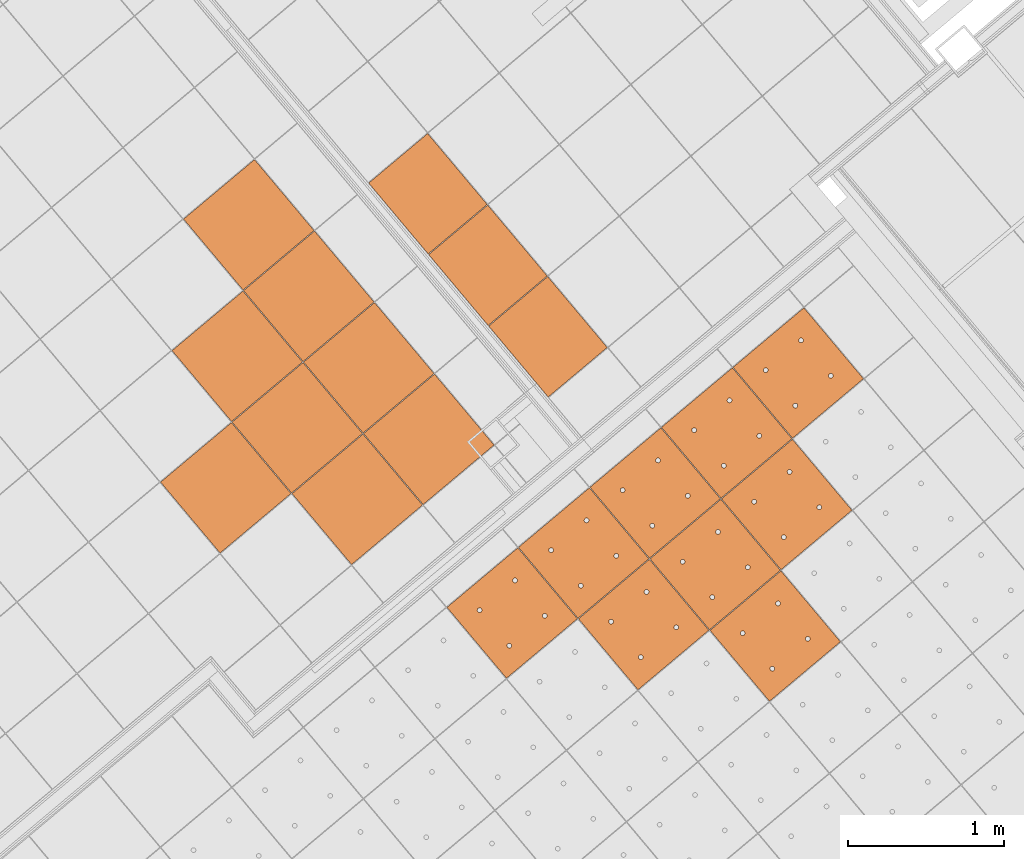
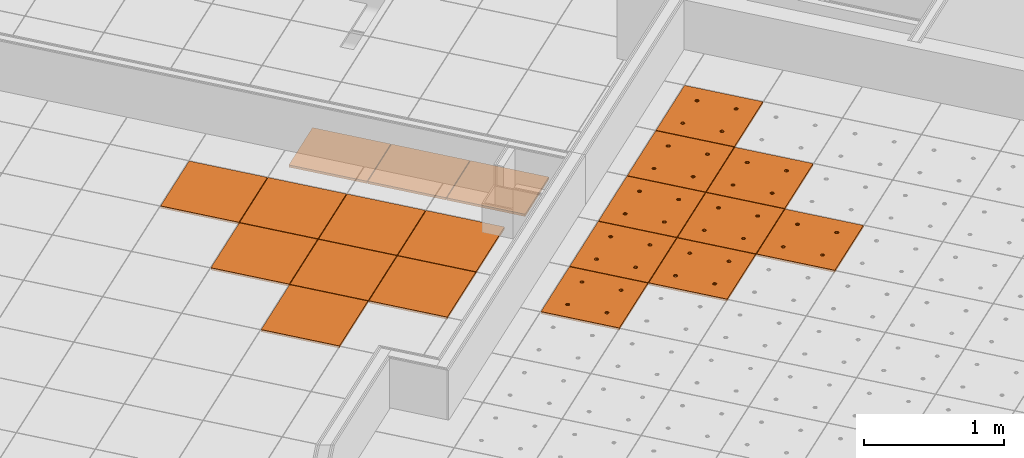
# One storey, part 191 of 338: 20 proxies, 3 elements without a shape of their own.
"""IFC2X3 building model written with IfcOpenShell, lengths in millimetres."""

import ifcopenshell
import ifcopenshell.guid

model = None  # the IFC model being written
_history = None  # IfcOwnerHistory: only IFC2X3 demands one
_inside = {}  # id of a spatial element -> (the spatial element, [elements in it])
_under = {}  # id of a project, library or spatial element -> (it, [spatial elements below it])
_declared = {}  # id of a project -> (the project, [libraries it declares])
_typed = {}  # id of a type object -> (the type object, [elements of that type])
_made_of = {}  # id of a material, layer set ... -> (it, [elements and type objects made of it])


def new_model(schema):
    """Start an empty IFC model of exactly this schema.

    Asked for "IFC4X3", IfcOpenShell would pick the latest addendum, in which some entities
    have other attributes; the version numbers below select the first issue.
    IFC2X3 requires an IfcOwnerHistory on every rooted entity: one is made here for all.
    """
    global model, _history
    if schema == "IFC4X3":
        model = ifcopenshell.file(schema_version=(4, 3, 0, 0))
    else:
        model = ifcopenshell.file(schema=schema)
    _inside.clear()
    _under.clear()
    _declared.clear()
    _typed.clear()
    _made_of.clear()
    _history = None
    if model.schema == "IFC2X3":
        org = make("IfcOrganization", Name="unknown")
        user = make(
            "IfcPersonAndOrganization",
            ThePerson=make("IfcPerson", FamilyName="unknown"),
            TheOrganization=org,
        )
        app = make(
            "IfcApplication",
            ApplicationDeveloper=org,
            Version="unknown",
            ApplicationFullName="unknown",
            ApplicationIdentifier="unknown",
        )
        _history = make(
            "IfcOwnerHistory",
            OwningUser=user,
            OwningApplication=app,
            ChangeAction="ADDED",
            CreationDate=0,
        )
    return model


def make(cls, **values):
    """One entity of the class cls with the attributes given. An attribute that is None is left unset."""
    return model.create_entity(
        cls, **{name: value for name, value in values.items() if value is not None}
    )


def entity(cls, *values):
    """Any entity or typed value of the class cls, its attributes in the order of the schema. None: left unset."""
    e = model.create_entity(cls)
    for i, value in enumerate(values):
        if value is not None:
            e[i] = value
    return e


def rooted(cls, **values):
    """An entity with a GlobalId (a new one), such as an element, a storey or a relation."""
    return make(cls, GlobalId=ifcopenshell.guid.new(), OwnerHistory=_history, **values)


def si_unit(unit_type, name, prefix=None):
    """IfcSIUnit, for example si_unit("LENGTHUNIT", "METRE", prefix="MILLI")."""
    return make("IfcSIUnit", UnitType=unit_type, Prefix=prefix, Name=name)


def converted_unit(unit_type, name, factor, base, dimensions=None, offset=None):
    """IfcConversionBasedUnit, such as the inch: factor (a typed value) times the base unit."""
    return make(
        "IfcConversionBasedUnit"
        if offset is None
        else "IfcConversionBasedUnitWithOffset",
        ConversionOffset=offset,
        Dimensions=None
        if dimensions is None
        else entity("IfcDimensionalExponents", *dimensions),
        UnitType=unit_type,
        Name=name,
        ConversionFactor=make(
            "IfcMeasureWithUnit", ValueComponent=factor, UnitComponent=base
        ),
    )


def derived_unit(unit_type, elements):
    """IfcDerivedUnit: a product of units, each with its exponent."""
    return make(
        "IfcDerivedUnit",
        Elements=[
            make("IfcDerivedUnitElement", Unit=unit, Exponent=power)
            for unit, power in elements
        ],
        UnitType=unit_type,
    )


def money_unit(currency):
    """IfcMonetaryUnit."""
    return make("IfcMonetaryUnit", Currency=currency)


def assignment(units):
    """IfcUnitAssignment: the units of a project."""
    return None if units is None else make("IfcUnitAssignment", Units=units)


def point(xyz):
    """IfcCartesianPoint."""
    return None if xyz is None else make("IfcCartesianPoint", Coordinates=xyz)


def direction(xyz):
    """IfcDirection."""
    return None if xyz is None else make("IfcDirection", DirectionRatios=xyz)


def frame(location, z_axis=None, x_axis=None):
    """IfcAxis2Placement3D, a coordinate frame: its origin and axes. An axis left out is left unset."""
    return make(
        "IfcAxis2Placement3D",
        Location=point(location),
        Axis=direction(z_axis),
        RefDirection=direction(x_axis),
    )


def origin_with_axes():
    """The frame at (0, 0, 0) with the z axis (0, 0, 1) and the x axis (1, 0, 0) written out."""
    return frame((0.0, 0.0, 0.0), z_axis=(0.0, 0.0, 1.0), x_axis=(1.0, 0.0, 0.0))


def place(relative_to, where):
    """IfcLocalPlacement: puts the frame where relative to a parent placement (None: the world)."""
    return make(
        "IfcLocalPlacement", PlacementRelTo=relative_to, RelativePlacement=where
    )


def context(
    kind, dimensions, precision=None, world=None, true_north=None, identifier=None
):
    """IfcGeometricRepresentationContext, for example the 3D "Model" context."""
    return make(
        "IfcGeometricRepresentationContext",
        ContextIdentifier=identifier,
        ContextType=kind,
        CoordinateSpaceDimension=dimensions,
        Precision=precision,
        WorldCoordinateSystem=world,
        TrueNorth=true_north,
    )


def subcontext(parent, identifier, kind, view, scale=None):
    """IfcGeometricRepresentationSubContext, for example "Body" below "Model"."""
    return make(
        "IfcGeometricRepresentationSubContext",
        ContextIdentifier=identifier,
        ContextType=kind,
        ParentContext=parent,
        TargetScale=scale,
        TargetView=view,
    )


def project(units=None, contexts=None):
    """IfcProject with its units and contexts."""
    return rooted(
        "IfcProject",
        Name="project",
        RepresentationContexts=contexts,
        UnitsInContext=assignment(units),
    )


def spatial(cls, under=None, at=None, **own):
    """A site, building, storey or space (cls), placed at a placement, below another one or the project."""
    s = rooted(cls, ObjectPlacement=at, **own)
    if under is not None:
        _under.setdefault(under.id(), (under, []))[1].append(s)
    return s


def faces_of(points, faces, orient=None, outer=None):
    """IfcFace entities. A face is a list of loops; a loop is a list of indices into points, from 0.

    orient and outer hold one flag for each loop. By default every Orientation is true, the
    first loop of a face is its IfcFaceOuterBound and the others are IfcFaceBound.
    """
    made = []
    for i, loops in enumerate(faces):
        bounds = []
        for j, loop in enumerate(loops):
            is_outer = j == 0 if outer is None else outer[i][j]
            bounds.append(
                make(
                    "IfcFaceOuterBound" if is_outer else "IfcFaceBound",
                    Bound=make("IfcPolyLoop", Polygon=[points[k] for k in loop]),
                    Orientation=True if orient is None else orient[i][j],
                )
            )
        made.append(make("IfcFace", Bounds=bounds))
    return made


def faceted_brep(points, faces, orient=None, outer=None, voids=None):
    """IfcFacetedBrep: a solid bounded by flat faces; with voids (closed shells), ...WithVoids."""
    shared = [point(p) for p in points]
    hull = make("IfcClosedShell", CfsFaces=faces_of(shared, faces, orient, outer))
    if voids is None:
        return make("IfcFacetedBrep", Outer=hull)
    return make(
        "IfcFacetedBrepWithVoids",
        Outer=hull,
        Voids=[
            make(cls, CfsFaces=faces_of(shared, fs, o, b)) for cls, fs, o, b in voids
        ],
    )


def shape(context_of_items, identifier, shape_type, items):
    """IfcShapeRepresentation: the items that make up one representation, for example the "Body"."""
    return make(
        "IfcShapeRepresentation",
        ContextOfItems=context_of_items,
        RepresentationIdentifier=identifier,
        RepresentationType=shape_type,
        Items=items,
    )


def source(mapping_origin, context_of_items, identifier, shape_type, items):
    """IfcRepresentationMap: a shape defined once, which mapped items show again and again."""
    return make(
        "IfcRepresentationMap",
        MappingOrigin=mapping_origin,
        MappedRepresentation=shape(context_of_items, identifier, shape_type, items),
    )


def transform(
    local_origin,
    x_axis=None,
    y_axis=None,
    z_axis=None,
    scale=None,
    scale2=None,
    scale3=None,
    uniform=True,
):
    """IfcCartesianTransformationOperator3D, or its non-uniform kind. x_axis, y_axis, z_axis: its Axis1, 2, 3."""
    if uniform:
        return make(
            "IfcCartesianTransformationOperator3D",
            Axis1=direction(x_axis),
            Axis2=direction(y_axis),
            LocalOrigin=point(local_origin),
            Scale=scale,
            Axis3=direction(z_axis),
        )
    return make(
        "IfcCartesianTransformationOperator3DnonUniform",
        Axis1=direction(x_axis),
        Axis2=direction(y_axis),
        LocalOrigin=point(local_origin),
        Scale=scale,
        Axis3=direction(z_axis),
        Scale2=scale2,
        Scale3=scale3,
    )


def mapped(mapping_source, mapping_target):
    """IfcMappedItem: shows the shape of a source again, moved by a transform."""
    return make(
        "IfcMappedItem", MappingSource=mapping_source, MappingTarget=mapping_target
    )


def material(Name=None, Category=None):
    """IfcMaterial."""
    return make("IfcMaterial", Name=Name, Category=Category)


def made_of(thing, what):
    """Note that an element or type object is made of a material, layer set ...; save() writes the relation."""
    if what is not None:
        _made_of.setdefault(what.id(), (what, []))[1].append(thing)
    return thing


def type_object(cls, material=None, **own):
    """A type object (cls), such as IfcWallType, which elements share."""
    return made_of(rooted(cls, **own), material)


def type_shapes(of_type, sources):
    """Give a type object the sources (RepresentationMaps) that its elements show as mapped items."""
    of_type.RepresentationMaps = sources


def element(
    cls,
    number,
    at=None,
    inside=None,
    cuts=None,
    type_object=None,
    material=None,
    context=None,
    identifier="Body",
    shape_type=None,
    held_by="IfcProductDefinitionShape",
    body=None,
    shapes=None,
    **own,
):
    """One element of the class cls, such as IfcWall. Its Tag is "e" and its number.

    at: its placement. inside: the storey or other place that contains it. cuts: it is an
    opening in that element (IfcRelVoidsElement). A single representation is given by context,
    identifier, shape_type and body (its items); several are given by shapes. held_by: the class
    of the entity that holds the representations. save() writes the other relations.
    """
    e = rooted(cls, Tag="e%d" % number, ObjectPlacement=at, **own)
    if body is not None:
        shapes = [shape(context, identifier, shape_type, body)]
    if shapes is not None:
        e.Representation = make(held_by, Representations=shapes)
    if inside is not None:
        _inside.setdefault(inside.id(), (inside, []))[1].append(e)
    if cuts is not None:
        rooted(
            "IfcRelVoidsElement", RelatingBuildingElement=cuts, RelatedOpeningElement=e
        )
    if type_object is not None:
        _typed.setdefault(type_object.id(), (type_object, []))[1].append(e)
    return made_of(e, material)


def aggregate(whole, parts):
    """IfcRelAggregates: a whole, such as a stair, and the parts it consists of."""
    return rooted("IfcRelAggregates", RelatingObject=whole, RelatedObjects=parts)


def save(model, path):
    """Write the relations noted so far, then the file.

    IfcRelAggregates (storeys below a building ...), IfcRelContainedInSpatialStructure (elements
    in a storey), IfcRelDefinesByType, IfcRelAssociatesMaterial and IfcRelDeclares: one each for
    every whole, place, type object, material and project.
    """
    for whole, parts in _under.values():
        aggregate(whole, parts)
    for where, things in _inside.values():
        rooted(
            "IfcRelContainedInSpatialStructure",
            RelatedElements=things,
            RelatingStructure=where,
        )
    for kind, things in _typed.values():
        rooted("IfcRelDefinesByType", RelatedObjects=things, RelatingType=kind)
    for what, things in _made_of.values():
        rooted("IfcRelAssociatesMaterial", RelatedObjects=things, RelatingMaterial=what)
    for by, libraries in _declared.values():
        rooted("IfcRelDeclares", RelatingContext=by, RelatedDefinitions=libraries)
    model.write(path)


model = new_model("IFC2X3")

# Units and contexts
model_context = context("Model", 3, precision=0.01, world=origin_with_axes(), true_north=direction((0.0, 1.0)))
plan_context = context("Plan", 3, precision=0.01, world=origin_with_axes(), true_north=direction((0.0, 1.0)))
body_context = subcontext(model_context, "Body", "Model", "MODEL_VIEW")
ifc_project = project(units=[si_unit("LENGTHUNIT", "METRE", prefix="MILLI"), si_unit("AREAUNIT", "SQUARE_METRE"), si_unit("VOLUMEUNIT", "CUBIC_METRE"), converted_unit("PLANEANGLEUNIT", "DEGREE", entity("IfcPlaneAngleMeasure", 0.0174532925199), si_unit("PLANEANGLEUNIT", "RADIAN"), dimensions=[0, 0, 0, 0, 0, 0, 0]), money_unit("EUR"), converted_unit("TIMEUNIT", "Year", entity("IfcTimeMeasure", 31556926.0), si_unit("TIMEUNIT", "SECOND"), dimensions=[0, 0, 1, 0, 0, 0, 0]), si_unit("MASSUNIT", "GRAM", prefix="KILO"), si_unit("THERMODYNAMICTEMPERATUREUNIT", "DEGREE_CELSIUS"), si_unit("LUMINOUSINTENSITYUNIT", "LUMEN"), si_unit("ENERGYUNIT", "JOULE", prefix="MEGA"), derived_unit("THERMALCONDUCTANCEUNIT", [(si_unit("POWERUNIT", "WATT"), 1), (si_unit("LENGTHUNIT", "METRE"), -1), (si_unit("THERMODYNAMICTEMPERATUREUNIT", "KELVIN"), -1)]), derived_unit("SPECIFICHEATCAPACITYUNIT", [(si_unit("ENERGYUNIT", "JOULE"), 1), (si_unit("MASSUNIT", "GRAM", prefix="KILO"), -1), (si_unit("THERMODYNAMICTEMPERATUREUNIT", "KELVIN"), -1)]), derived_unit("MASSDENSITYUNIT", [(si_unit("MASSUNIT", "GRAM", prefix="KILO"), 1), (si_unit("VOLUMEUNIT", "CUBIC_METRE"), -1)])], contexts=[model_context, plan_context])

# Site, building, storey
site_placement = place(None, origin_with_axes())
site = spatial("IfcSite", under=ifc_project, at=site_placement, Name="Fortuinstraat Woensdrecht", CompositionType="ELEMENT")
building_placement = place(site_placement, origin_with_axes())
building = spatial("IfcBuilding", under=site, at=building_placement, Name="IKC Fortuna", CompositionType="ELEMENT")
storey_placement = place(building_placement, origin_with_axes())
storey = spatial("IfcBuildingStorey", under=building, at=storey_placement, Name="00 begane grond", CompositionType="ELEMENT", Elevation=0.0)

# Covering, proxies
covering_type = type_object("IfcCoveringType", Name="Curtain Wall Type", PredefinedType="CEILING")
covering_1_placement = place(storey_placement, frame((17937.1227498, -4186.27868692, 4660.0), z_axis=(0.0, 0.0, 1.0), x_axis=(1.0, 0.0, 0.0)))
covering_1 = element("IfcCovering", 1, at=covering_1_placement, inside=storey, type_object=covering_type, Name="45_Plafondafwerking_P02", PredefinedType="CEILING")
ifc_material = material(Name="Gipsplaat")
building_element_proxy_type_1 = type_object("IfcBuildingElementProxyType", Name="Distinct Panel 600 x 600 x 20", PredefinedType="NOTDEFINED")
shared_shape_1 = source(origin_with_axes(), body_context, "Body", "Brep", [
    faceted_brep([(2.49999999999, 2.5, -10.0), (597.5, 2.49999999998, -10.0), (597.5, 2.49999999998, 10.0), (2.49999999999, 2.5, 10.0), (2.50000000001, 597.5, -10.0), (597.5, 597.5, -10.0), (597.5, 597.5, 10.0), (2.50000000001, 597.5, 10.0)], [[[0, 1, 2, 3]], [[0, 4, 5, 1]], [[1, 5, 6, 2]], [[3, 2, 6, 7]], [[4, 0, 3, 7]], [[5, 4, 7, 6]]]),
])
proxy_1_placement = place(covering_1_placement, frame((-681.2677545, 811.902875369, 0.0), z_axis=(0.0, 0.0, 1.0), x_axis=(1.0, 0.0, 0.0)))
proxy_1 = element("IfcBuildingElementProxy", 2, at=proxy_1_placement, type_object=building_element_proxy_type_1, material=ifc_material, Name="__Panel-D", context=body_context, shape_type="MappedRepresentation", body=[
    mapped(shared_shape_1, transform((36.9769427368, 422.649625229, 0.0), x_axis=(-0.766044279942, -0.642787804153, 0.0), y_axis=(0.642787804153, -0.766044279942, 0.0), z_axis=(0.0, 0.0, 1.0))),
])
proxy_2_placement = place(covering_1_placement, frame((623.658063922, 1123.62167239, 0.0), z_axis=(0.0, 0.0, 1.0), x_axis=(1.0, 0.0, 0.0)))
proxy_2 = element("IfcBuildingElementProxy", 3, at=proxy_2_placement, type_object=building_element_proxy_type_1, material=ifc_material, Name="__Panel-D", context=body_context, shape_type="MappedRepresentation", body=[
    mapped(shared_shape_1, transform((36.9769427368, 422.649625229, 0.0), x_axis=(-0.766044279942, -0.642787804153, 0.0), y_axis=(0.642787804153, -0.766044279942, 0.0), z_axis=(0.0, 0.0, 1.0))),
])
proxy_3_placement = place(covering_1_placement, frame((-607.313869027, 1657.20212583, 0.0), z_axis=(0.0, 0.0, 1.0), x_axis=(1.0, 0.0, 0.0)))
proxy_3 = element("IfcBuildingElementProxy", 4, at=proxy_3_placement, type_object=building_element_proxy_type_1, material=ifc_material, Name="__Panel-D", context=body_context, shape_type="MappedRepresentation", body=[
    mapped(shared_shape_1, transform((36.9769427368, 422.649625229, 0.0), x_axis=(-0.766044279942, -0.642787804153, 0.0), y_axis=(0.642787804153, -0.766044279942, 0.0), z_axis=(0.0, 0.0, 1.0))),
])
proxy_4_placement = place(covering_1_placement, frame((-147.687301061, 2042.87480832, 0.0), z_axis=(0.0, 0.0, 1.0), x_axis=(1.0, 0.0, 0.0)))
proxy_4 = element("IfcBuildingElementProxy", 5, at=proxy_4_placement, type_object=building_element_proxy_type_1, material=ifc_material, Name="__Panel-D", context=body_context, shape_type="MappedRepresentation", body=[
    mapped(shared_shape_1, transform((36.9769427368, 422.649625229, 0.0), x_axis=(-0.766044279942, -0.642787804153, 0.0), y_axis=(0.642787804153, -0.766044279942, 0.0), z_axis=(0.0, 0.0, 1.0))),
])
proxy_5_placement = place(covering_1_placement, frame((237.98538143, 1583.24824035, 0.0), z_axis=(0.0, 0.0, 1.0), x_axis=(1.0, 0.0, 0.0)))
proxy_5 = element("IfcBuildingElementProxy", 6, at=proxy_5_placement, type_object=building_element_proxy_type_1, material=ifc_material, Name="__Panel-D", context=body_context, shape_type="MappedRepresentation", body=[
    mapped(shared_shape_1, transform((36.9769427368, 422.649625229, 0.0), x_axis=(-0.766044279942, -0.642787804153, 0.0), y_axis=(0.642787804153, -0.766044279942, 0.0), z_axis=(0.0, 0.0, 1.0))),
])
proxy_6_placement = place(covering_1_placement, frame((-533.359983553, 2502.50137628, 0.0), z_axis=(0.0, 0.0, 1.0), x_axis=(1.0, 0.0, 0.0)))
proxy_6 = element("IfcBuildingElementProxy", 7, at=proxy_6_placement, type_object=building_element_proxy_type_1, material=ifc_material, Name="__Panel-D", context=body_context, shape_type="MappedRepresentation", body=[
    mapped(shared_shape_1, transform((36.9769427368, 422.649625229, 0.0), x_axis=(-0.766044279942, -0.642787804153, 0.0), y_axis=(0.642787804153, -0.766044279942, 0.0), z_axis=(0.0, 0.0, 1.0))),
])
proxy_7_placement = place(covering_1_placement, frame((164.031495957, 737.948989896, 0.0), z_axis=(0.0, 0.0, 1.0), x_axis=(1.0, 0.0, 0.0)))
proxy_7 = element("IfcBuildingElementProxy", 8, at=proxy_7_placement, type_object=building_element_proxy_type_1, material=ifc_material, Name="__Panel-D", context=body_context, shape_type="MappedRepresentation", body=[
    mapped(shared_shape_1, transform((36.9769427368, 422.649625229, 0.0), x_axis=(-0.766044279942, -0.642787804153, 0.0), y_axis=(0.642787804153, -0.766044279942, 0.0), z_axis=(0.0, 0.0, 1.0))),
])
shared_shape_2 = source(origin_with_axes(), body_context, "Body", "Brep", [
    faceted_brep([(2.50000188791, 2.50000518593, -10.0), (597.499994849, 2.50000192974, -10.0), (597.499994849, 2.50000192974, 10.0), (2.50000188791, 2.50000518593, 10.0), (2.50000514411, 597.499998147, -10.0), (597.499998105, 597.499994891, -10.0), (597.499998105, 597.499994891, 10.0), (2.50000514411, 597.499998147, 10.0)], [[[0, 1, 2, 3]], [[0, 4, 5, 1]], [[1, 5, 6, 2]], [[3, 2, 6, 7]], [[4, 0, 3, 7]], [[5, 4, 7, 6]]]),
])
type_shapes(building_element_proxy_type_1, [shared_shape_1, shared_shape_2])
proxy_8_placement = place(covering_1_placement, frame((-221.641186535, 1197.57555786, 0.0), z_axis=(0.0, 0.0, 1.0), x_axis=(1.0, 0.0, 0.0)))
proxy_8 = element("IfcBuildingElementProxy", 9, at=proxy_8_placement, type_object=building_element_proxy_type_1, material=ifc_material, Name="__Panel-D", context=body_context, shape_type="MappedRepresentation", body=[
    mapped(shared_shape_2, transform((36.9769427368, 422.649625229, 0.0), x_axis=(-0.766044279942, -0.642787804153, 0.0), y_axis=(0.642787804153, -0.766044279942, 0.0), z_axis=(0.0, 0.0, 1.0))),
])
aggregate(covering_1, [proxy_1, proxy_2, proxy_3, proxy_4, proxy_8, proxy_5, proxy_6, proxy_7])

covering_2_placement = place(storey_placement, frame((19785.7448517, -11392.5753808, 4660.0), z_axis=(0.0, 0.0, 1.0), x_axis=(1.0, 0.0, 0.0)))
covering_2 = element("IfcCovering", 10, at=covering_2_placement, inside=storey, type_object=covering_type, Name="45_Plafondafwerking_P01", PredefinedType="CEILING")
building_element_proxy_type_2 = type_object("IfcBuildingElementProxyType", Name="Main Panel 600 x 600 x 20", PredefinedType="NOTDEFINED")
shared_shape_3 = source(origin_with_axes(), body_context, "Body", "Brep", [
    faceted_brep([(2.49999999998, 2.49999999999, -10.0), (300.0, 2.49999999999, -10.0), (300.0, 2.49999999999, 10.0), (2.49999999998, 2.49999999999, 10.0), (2.49999999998, 300.0, -10.0), (2.49999999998, 597.5, -10.0), (300.0, 597.5, -10.0), (597.5, 597.5, -10.0), (597.5, 300.0, -10.0), (597.5, 2.49999999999, -10.0), (166.25, 450.06232995, -10.0), (165.79423259, 452.64711538, -10.0), (164.896546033, 455.11348892, -10.0), (163.58421608, 457.38651108, -10.0), (161.897117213, 459.39711721, -10.0), (159.886511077, 461.08421608, -10.0), (157.613488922, 462.39654603, -10.0), (155.147115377, 463.29423259, -10.0), (152.562329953, 463.75, -10.0), (149.937670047, 463.75, -10.0), (147.352884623, 463.29423259, -10.0), (144.886511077, 462.39654603, -10.0), (142.613488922, 461.08421608, -10.0), (140.602882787, 459.39711721, -10.0), (138.91578392, 457.38651108, -10.0), (137.603453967, 455.11348892, -10.0), (136.705767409, 452.64711538, -10.0), (136.25, 450.06232995, -10.0), (136.25, 448.75, -10.0), (136.25, 447.43767005, -10.0), (136.705767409, 444.85288462, -10.0), (137.603453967, 442.38651108, -10.0), (138.91578392, 440.11348892, -10.0), (140.602882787, 438.10288279, -10.0), (142.613488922, 436.41578392, -10.0), (144.886511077, 435.10345397, -10.0), (147.352884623, 434.20576741, -10.0), (149.937670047, 433.75, -10.0), (152.562329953, 433.75, -10.0), (155.147115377, 434.20576741, -10.0), (157.613488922, 435.10345397, -10.0), (159.886511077, 436.41578392, -10.0), (161.897117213, 438.10288279, -10.0), (163.58421608, 440.11348892, -10.0), (164.896546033, 442.38651108, -10.0), (165.79423259, 444.85288462, -10.0), (166.25, 447.43767005, -10.0), (463.75, 450.06232995, -10.0), (463.29423259, 452.64711538, -10.0), (462.396546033, 455.11348892, -10.0), (461.08421608, 457.38651108, -10.0), (459.397117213, 459.39711721, -10.0), (457.386511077, 461.08421608, -10.0), (455.113488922, 462.39654603, -10.0), (452.647115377, 463.29423259, -10.0), (450.062329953, 463.75, -10.0), (447.437670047, 463.75, -10.0), (444.852884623, 463.29423259, -10.0), (442.386511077, 462.39654603, -10.0), (440.113488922, 461.08421608, -10.0), (438.102882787, 459.39711721, -10.0), (436.41578392, 457.38651108, -10.0), (435.103453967, 455.11348892, -10.0), (434.205767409, 452.64711538, -10.0), (433.75, 450.06232995, -10.0), (433.75, 448.75, -10.0), (433.75, 447.43767005, -10.0), (434.205767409, 444.85288462, -10.0), (435.103453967, 442.38651108, -10.0), (436.41578392, 440.11348892, -10.0), (438.102882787, 438.10288279, -10.0), (440.113488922, 436.41578392, -10.0), (442.386511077, 435.10345397, -10.0), (444.852884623, 434.20576741, -10.0), (447.437670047, 433.75, -10.0), (450.062329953, 433.75, -10.0), (452.647115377, 434.20576741, -10.0), (455.113488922, 435.10345397, -10.0), (457.386511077, 436.41578392, -10.0), (459.397117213, 438.10288279, -10.0), (461.08421608, 440.11348892, -10.0), (462.396546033, 442.38651108, -10.0), (463.29423259, 444.85288462, -10.0), (463.75, 447.43767005, -10.0), (463.75, 152.56232995, -10.0), (463.29423259, 155.14711538, -10.0), (462.396546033, 157.61348892, -10.0), (461.08421608, 159.88651108, -10.0), (459.397117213, 161.89711721, -10.0), (457.386511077, 163.58421608, -10.0), (455.113488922, 164.89654603, -10.0), (452.647115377, 165.79423259, -10.0), (450.062329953, 166.25, -10.0), (447.437670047, 166.25, -10.0), (444.852884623, 165.79423259, -10.0), (442.386511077, 164.89654603, -10.0), (440.113488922, 163.58421608, -10.0), (438.102882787, 161.89711721, -10.0), (436.41578392, 159.88651108, -10.0), (435.103453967, 157.61348892, -10.0), (434.205767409, 155.14711538, -10.0), (433.75, 152.56232995, -10.0), (433.75, 151.25, -10.0), (433.75, 149.93767005, -10.0), (434.205767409, 147.35288462, -10.0), (435.103453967, 144.88651108, -10.0), (436.41578392, 142.61348892, -10.0), (438.102882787, 140.60288279, -10.0), (440.113488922, 138.91578392, -10.0), (442.386511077, 137.60345397, -10.0), (444.852884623, 136.70576741, -10.0), (447.437670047, 136.25, -10.0), (450.062329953, 136.25, -10.0), (452.647115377, 136.70576741, -10.0), (455.113488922, 137.60345397, -10.0), (457.386511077, 138.91578392, -10.0), (459.397117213, 140.60288279, -10.0), (461.08421608, 142.61348892, -10.0), (462.396546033, 144.88651108, -10.0), (463.29423259, 147.35288462, -10.0), (463.75, 149.93767005, -10.0), (166.25, 152.56232995, -10.0), (165.79423259, 155.14711538, -10.0), (164.896546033, 157.61348892, -10.0), (163.58421608, 159.88651108, -10.0), (161.897117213, 161.89711721, -10.0), (159.886511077, 163.58421608, -10.0), (157.613488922, 164.89654603, -10.0), (155.147115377, 165.79423259, -10.0), (152.562329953, 166.25, -10.0), (149.937670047, 166.25, -10.0), (147.352884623, 165.79423259, -10.0), (144.886511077, 164.89654603, -10.0), (142.613488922, 163.58421608, -10.0), (140.602882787, 161.89711721, -10.0), (138.91578392, 159.88651108, -10.0), (137.603453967, 157.61348892, -10.0), (136.705767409, 155.14711538, -10.0), (136.25, 152.56232995, -10.0), (136.25, 151.25, -10.0), (136.25, 149.93767005, -10.0), (136.705767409, 147.35288462, -10.0), (137.603453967, 144.88651108, -10.0), (138.91578392, 142.61348892, -10.0), (140.602882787, 140.60288279, -10.0), (142.613488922, 138.91578392, -10.0), (144.886511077, 137.60345397, -10.0), (147.352884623, 136.70576741, -10.0), (149.937670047, 136.25, -10.0), (152.562329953, 136.25, -10.0), (155.147115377, 136.70576741, -10.0), (157.613488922, 137.60345397, -10.0), (159.886511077, 138.91578392, -10.0), (161.897117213, 140.60288279, -10.0), (163.58421608, 142.61348892, -10.0), (164.896546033, 144.88651108, -10.0), (165.79423259, 147.35288462, -10.0), (166.25, 149.93767005, -10.0), (597.5, 2.49999999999, 10.0), (597.5, 300.0, 10.0), (597.5, 597.5, 10.0), (300.0, 597.5, 10.0), (2.49999999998, 597.5, 10.0), (2.49999999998, 300.0, 10.0), (166.25, 450.06232995, 10.0), (166.25, 447.43767005, 10.0), (165.79423259, 444.85288462, 10.0), (164.896546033, 442.38651108, 10.0), (163.58421608, 440.11348892, 10.0), (161.897117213, 438.10288279, 10.0), (159.886511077, 436.41578392, 10.0), (157.613488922, 435.10345397, 10.0), (155.147115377, 434.20576741, 10.0), (152.562329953, 433.75, 10.0), (149.937670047, 433.75, 10.0), (147.352884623, 434.20576741, 10.0), (144.886511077, 435.10345397, 10.0), (142.613488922, 436.41578392, 10.0), (140.602882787, 438.10288279, 10.0), (138.91578392, 440.11348892, 10.0), (137.603453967, 442.38651108, 10.0), (136.705767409, 444.85288462, 10.0), (136.25, 447.43767005, 10.0), (136.25, 448.75, 10.0), (136.25, 450.06232995, 10.0), (136.705767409, 452.64711538, 10.0), (137.603453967, 455.11348892, 10.0), (138.91578392, 457.38651108, 10.0), (140.602882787, 459.39711721, 10.0), (142.613488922, 461.08421608, 10.0), (144.886511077, 462.39654603, 10.0), (147.352884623, 463.29423259, 10.0), (149.937670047, 463.75, 10.0), (152.562329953, 463.75, 10.0), (155.147115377, 463.29423259, 10.0), (157.613488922, 462.39654603, 10.0), (159.886511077, 461.08421608, 10.0), (161.897117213, 459.39711721, 10.0), (163.58421608, 457.38651108, 10.0), (164.896546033, 455.11348892, 10.0), (165.79423259, 452.64711538, 10.0), (463.75, 450.06232995, 10.0), (463.75, 447.43767005, 10.0), (463.29423259, 444.85288462, 10.0), (462.396546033, 442.38651108, 10.0), (461.08421608, 440.11348892, 10.0), (459.397117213, 438.10288279, 10.0), (457.386511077, 436.41578392, 10.0), (455.113488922, 435.10345397, 10.0), (452.647115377, 434.20576741, 10.0), (450.062329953, 433.75, 10.0), (447.437670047, 433.75, 10.0), (444.852884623, 434.20576741, 10.0), (442.386511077, 435.10345397, 10.0), (440.113488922, 436.41578392, 10.0), (438.102882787, 438.10288279, 10.0), (436.41578392, 440.11348892, 10.0), (435.103453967, 442.38651108, 10.0), (434.205767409, 444.85288462, 10.0), (433.75, 447.43767005, 10.0), (433.75, 448.75, 10.0), (433.75, 450.06232995, 10.0), (434.205767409, 452.64711538, 10.0), (435.103453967, 455.11348892, 10.0), (436.41578392, 457.38651108, 10.0), (438.102882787, 459.39711721, 10.0), (440.113488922, 461.08421608, 10.0), (442.386511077, 462.39654603, 10.0), (444.852884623, 463.29423259, 10.0), (447.437670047, 463.75, 10.0), (450.062329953, 463.75, 10.0), (452.647115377, 463.29423259, 10.0), (455.113488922, 462.39654603, 10.0), (457.386511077, 461.08421608, 10.0), (459.397117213, 459.39711721, 10.0), (461.08421608, 457.38651108, 10.0), (462.396546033, 455.11348892, 10.0), (463.29423259, 452.64711538, 10.0), (463.75, 152.56232995, 10.0), (463.75, 149.93767005, 10.0), (463.29423259, 147.35288462, 10.0), (462.396546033, 144.88651108, 10.0), (461.08421608, 142.61348892, 10.0), (459.397117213, 140.60288279, 10.0), (457.386511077, 138.91578392, 10.0), (455.113488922, 137.60345397, 10.0), (452.647115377, 136.70576741, 10.0), (450.062329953, 136.25, 10.0), (447.437670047, 136.25, 10.0), (444.852884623, 136.70576741, 10.0), (442.386511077, 137.60345397, 10.0), (440.113488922, 138.91578392, 10.0), (438.102882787, 140.60288279, 10.0), (436.41578392, 142.61348892, 10.0), (435.103453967, 144.88651108, 10.0), (434.205767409, 147.35288462, 10.0), (433.75, 149.93767005, 10.0), (433.75, 151.25, 10.0), (433.75, 152.56232995, 10.0), (434.205767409, 155.14711538, 10.0), (435.103453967, 157.61348892, 10.0), (436.41578392, 159.88651108, 10.0), (438.102882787, 161.89711721, 10.0), (440.113488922, 163.58421608, 10.0), (442.386511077, 164.89654603, 10.0), (444.852884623, 165.79423259, 10.0), (447.437670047, 166.25, 10.0), (450.062329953, 166.25, 10.0), (452.647115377, 165.79423259, 10.0), (455.113488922, 164.89654603, 10.0), (457.386511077, 163.58421608, 10.0), (459.397117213, 161.89711721, 10.0), (461.08421608, 159.88651108, 10.0), (462.396546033, 157.61348892, 10.0), (463.29423259, 155.14711538, 10.0), (166.25, 152.56232995, 10.0), (166.25, 149.93767005, 10.0), (165.79423259, 147.35288462, 10.0), (164.896546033, 144.88651108, 10.0), (163.58421608, 142.61348892, 10.0), (161.897117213, 140.60288279, 10.0), (159.886511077, 138.91578392, 10.0), (157.613488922, 137.60345397, 10.0), (155.147115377, 136.70576741, 10.0), (152.562329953, 136.25, 10.0), (149.937670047, 136.25, 10.0), (147.352884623, 136.70576741, 10.0), (144.886511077, 137.60345397, 10.0), (142.613488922, 138.91578392, 10.0), (140.602882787, 140.60288279, 10.0), (138.91578392, 142.61348892, 10.0), (137.603453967, 144.88651108, 10.0), (136.705767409, 147.35288462, 10.0), (136.25, 149.93767005, 10.0), (136.25, 151.25, 10.0), (136.25, 152.56232995, 10.0), (136.705767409, 155.14711538, 10.0), (137.603453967, 157.61348892, 10.0), (138.91578392, 159.88651108, 10.0), (140.602882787, 161.89711721, 10.0), (142.613488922, 163.58421608, 10.0), (144.886511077, 164.89654603, 10.0), (147.352884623, 165.79423259, 10.0), (149.937670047, 166.25, 10.0), (152.562329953, 166.25, 10.0), (155.147115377, 165.79423259, 10.0), (157.613488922, 164.89654603, 10.0), (159.886511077, 163.58421608, 10.0), (161.897117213, 161.89711721, 10.0), (163.58421608, 159.88651108, 10.0), (164.896546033, 157.61348892, 10.0), (165.79423259, 155.14711538, 10.0)], [[[0, 1, 2, 3]], [[0, 4, 5, 6, 7, 8, 9, 1], [10, 11, 12, 13, 14, 15, 16, 17, 18, 19, 20, 21, 22, 23, 24, 25, 26, 27, 28, 29, 30, 31, 32, 33, 34, 35, 36, 37, 38, 39, 40, 41, 42, 43, 44, 45, 46], [47, 48, 49, 50, 51, 52, 53, 54, 55, 56, 57, 58, 59, 60, 61, 62, 63, 64, 65, 66, 67, 68, 69, 70, 71, 72, 73, 74, 75, 76, 77, 78, 79, 80, 81, 82, 83], [84, 85, 86, 87, 88, 89, 90, 91, 92, 93, 94, 95, 96, 97, 98, 99, 100, 101, 102, 103, 104, 105, 106, 107, 108, 109, 110, 111, 112, 113, 114, 115, 116, 117, 118, 119, 120], [121, 122, 123, 124, 125, 126, 127, 128, 129, 130, 131, 132, 133, 134, 135, 136, 137, 138, 139, 140, 141, 142, 143, 144, 145, 146, 147, 148, 149, 150, 151, 152, 153, 154, 155, 156, 157]], [[1, 9, 158, 2]], [[3, 2, 158, 159, 160, 161, 162, 163], [164, 165, 166, 167, 168, 169, 170, 171, 172, 173, 174, 175, 176, 177, 178, 179, 180, 181, 182, 183, 184, 185, 186, 187, 188, 189, 190, 191, 192, 193, 194, 195, 196, 197, 198, 199, 200], [201, 202, 203, 204, 205, 206, 207, 208, 209, 210, 211, 212, 213, 214, 215, 216, 217, 218, 219, 220, 221, 222, 223, 224, 225, 226, 227, 228, 229, 230, 231, 232, 233, 234, 235, 236, 237], [238, 239, 240, 241, 242, 243, 244, 245, 246, 247, 248, 249, 250, 251, 252, 253, 254, 255, 256, 257, 258, 259, 260, 261, 262, 263, 264, 265, 266, 267, 268, 269, 270, 271, 272, 273, 274], [275, 276, 277, 278, 279, 280, 281, 282, 283, 284, 285, 286, 287, 288, 289, 290, 291, 292, 293, 294, 295, 296, 297, 298, 299, 300, 301, 302, 303, 304, 305, 306, 307, 308, 309, 310, 311]], [[4, 0, 3, 163]], [[5, 4, 163, 162]], [[6, 5, 162, 161]], [[7, 6, 161, 160]], [[8, 7, 160, 159]], [[9, 8, 159, 158]], [[11, 10, 164, 200]], [[12, 11, 200, 199]], [[13, 12, 199, 198]], [[14, 13, 198, 197]], [[15, 14, 197, 196]], [[16, 15, 196, 195]], [[17, 16, 195, 194]], [[18, 17, 194, 193]], [[19, 18, 193, 192]], [[20, 19, 192, 191]], [[21, 20, 191, 190]], [[22, 21, 190, 189]], [[23, 22, 189, 188]], [[24, 23, 188, 187]], [[25, 24, 187, 186]], [[26, 25, 186, 185]], [[27, 26, 185, 184]], [[28, 27, 184, 183]], [[29, 28, 183, 182]], [[30, 29, 182, 181]], [[31, 30, 181, 180]], [[32, 31, 180, 179]], [[33, 32, 179, 178]], [[34, 33, 178, 177]], [[35, 34, 177, 176]], [[36, 35, 176, 175]], [[37, 36, 175, 174]], [[38, 37, 174, 173]], [[39, 38, 173, 172]], [[40, 39, 172, 171]], [[41, 40, 171, 170]], [[42, 41, 170, 169]], [[43, 42, 169, 168]], [[44, 43, 168, 167]], [[45, 44, 167, 166]], [[46, 45, 166, 165]], [[10, 46, 165, 164]], [[48, 47, 201, 237]], [[49, 48, 237, 236]], [[50, 49, 236, 235]], [[51, 50, 235, 234]], [[52, 51, 234, 233]], [[53, 52, 233, 232]], [[54, 53, 232, 231]], [[55, 54, 231, 230]], [[56, 55, 230, 229]], [[57, 56, 229, 228]], [[58, 57, 228, 227]], [[59, 58, 227, 226]], [[60, 59, 226, 225]], [[61, 60, 225, 224]], [[62, 61, 224, 223]], [[63, 62, 223, 222]], [[64, 63, 222, 221]], [[65, 64, 221, 220]], [[66, 65, 220, 219]], [[67, 66, 219, 218]], [[68, 67, 218, 217]], [[69, 68, 217, 216]], [[70, 69, 216, 215]], [[71, 70, 215, 214]], [[72, 71, 214, 213]], [[73, 72, 213, 212]], [[74, 73, 212, 211]], [[75, 74, 211, 210]], [[76, 75, 210, 209]], [[77, 76, 209, 208]], [[78, 77, 208, 207]], [[79, 78, 207, 206]], [[80, 79, 206, 205]], [[81, 80, 205, 204]], [[82, 81, 204, 203]], [[83, 82, 203, 202]], [[47, 83, 202, 201]], [[85, 84, 238, 274]], [[86, 85, 274, 273]], [[87, 86, 273, 272]], [[88, 87, 272, 271]], [[89, 88, 271, 270]], [[90, 89, 270, 269]], [[91, 90, 269, 268]], [[92, 91, 268, 267]], [[93, 92, 267, 266]], [[94, 93, 266, 265]], [[95, 94, 265, 264]], [[96, 95, 264, 263]], [[97, 96, 263, 262]], [[98, 97, 262, 261]], [[99, 98, 261, 260]], [[100, 99, 260, 259]], [[101, 100, 259, 258]], [[102, 101, 258, 257]], [[103, 102, 257, 256]], [[104, 103, 256, 255]], [[105, 104, 255, 254]], [[106, 105, 254, 253]], [[107, 106, 253, 252]], [[108, 107, 252, 251]], [[109, 108, 251, 250]], [[110, 109, 250, 249]], [[111, 110, 249, 248]], [[112, 111, 248, 247]], [[113, 112, 247, 246]], [[114, 113, 246, 245]], [[115, 114, 245, 244]], [[116, 115, 244, 243]], [[117, 116, 243, 242]], [[118, 117, 242, 241]], [[119, 118, 241, 240]], [[120, 119, 240, 239]], [[84, 120, 239, 238]], [[122, 121, 275, 311]], [[123, 122, 311, 310]], [[124, 123, 310, 309]], [[125, 124, 309, 308]], [[126, 125, 308, 307]], [[127, 126, 307, 306]], [[128, 127, 306, 305]], [[129, 128, 305, 304]], [[130, 129, 304, 303]], [[131, 130, 303, 302]], [[132, 131, 302, 301]], [[133, 132, 301, 300]], [[134, 133, 300, 299]], [[135, 134, 299, 298]], [[136, 135, 298, 297]], [[137, 136, 297, 296]], [[138, 137, 296, 295]], [[139, 138, 295, 294]], [[140, 139, 294, 293]], [[141, 140, 293, 292]], [[142, 141, 292, 291]], [[143, 142, 291, 290]], [[144, 143, 290, 289]], [[145, 144, 289, 288]], [[146, 145, 288, 287]], [[147, 146, 287, 286]], [[148, 147, 286, 285]], [[149, 148, 285, 284]], [[150, 149, 284, 283]], [[151, 150, 283, 282]], [[152, 151, 282, 281]], [[153, 152, 281, 280]], [[154, 153, 280, 279]], [[155, 154, 279, 278]], [[156, 155, 278, 277]], [[157, 156, 277, 276]], [[121, 157, 276, 275]]]),
])
type_shapes(building_element_proxy_type_2, [shared_shape_3])
proxy_9_placement = place(covering_2_placement, frame((156.142599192, 7139.4280905, 0.0), z_axis=(0.0, 0.0, 1.0), x_axis=(1.0, 0.0, 0.0)))
proxy_9 = element("IfcBuildingElementProxy", 11, at=proxy_9_placement, type_object=building_element_proxy_type_2, material=ifc_material, Name="__600x622 Rockfon Krios", context=body_context, shape_type="MappedRepresentation", body=[
    mapped(shared_shape_3, transform((36.9769427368, 422.649625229, 0.0), x_axis=(-0.766044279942, -0.642787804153, 0.0), y_axis=(0.642787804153, -0.766044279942, 0.0), z_axis=(0.0, 0.0, 1.0))),
])
proxy_10_placement = place(covering_2_placement, frame((-689.156651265, 7213.38197598, 1.02140518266e-10), z_axis=(0.0, 0.0, 1.0), x_axis=(1.0, 0.0, 0.0)))
proxy_10 = element("IfcBuildingElementProxy", 12, at=proxy_10_placement, type_object=building_element_proxy_type_2, material=ifc_material, Name="__600x625 Rockfon Krios", context=body_context, shape_type="MappedRepresentation", body=[
    mapped(shared_shape_3, transform((36.9769427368, 422.649625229, 0.0), x_axis=(-0.766044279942, -0.642787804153, 0.0), y_axis=(0.642787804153, -0.766044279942, 0.0), z_axis=(0.0, 0.0, 1.0))),
])
proxy_11_placement = place(covering_2_placement, frame((1149.3496206, 8756.07270594, 0.0), z_axis=(0.0, 0.0, 1.0), x_axis=(1.0, 0.0, 0.0)))
proxy_11 = element("IfcBuildingElementProxy", 13, at=proxy_11_placement, type_object=building_element_proxy_type_2, material=ifc_material, Name="__600x639 Rockfon Krios", context=body_context, shape_type="MappedRepresentation", body=[
    mapped(shared_shape_3, transform((36.9769427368, 422.649625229, 0.0), x_axis=(-0.766044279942, -0.642787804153, 0.0), y_axis=(0.642787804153, -0.766044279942, 0.0), z_axis=(0.0, 0.0, 1.0))),
])
proxy_12_placement = place(covering_2_placement, frame((689.723052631, 8370.40002345, 0.0), z_axis=(0.0, 0.0, 1.0), x_axis=(1.0, 0.0, 0.0)))
proxy_12 = element("IfcBuildingElementProxy", 14, at=proxy_12_placement, type_object=building_element_proxy_type_2, material=ifc_material, Name="__600x643 Rockfon Krios", context=body_context, shape_type="MappedRepresentation", body=[
    mapped(shared_shape_3, transform((36.9769427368, 422.649625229, 0.0), x_axis=(-0.766044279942, -0.642787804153, 0.0), y_axis=(0.642787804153, -0.766044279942, 0.0), z_axis=(0.0, 0.0, 1.0))),
])
proxy_13_placement = place(covering_2_placement, frame((1075.39573512, 7910.77345549, 0.0), z_axis=(0.0, 0.0, 1.0), x_axis=(1.0, 0.0, 0.0)))
proxy_13 = element("IfcBuildingElementProxy", 15, at=proxy_13_placement, type_object=building_element_proxy_type_2, material=ifc_material, Name="__600x644 Rockfon Krios", context=body_context, shape_type="MappedRepresentation", body=[
    mapped(shared_shape_3, transform((36.9769427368, 422.649625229, 0.0), x_axis=(-0.766044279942, -0.642787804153, 0.0), y_axis=(0.642787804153, -0.766044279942, 0.0), z_axis=(0.0, 0.0, 1.0))),
])
proxy_14_placement = place(covering_2_placement, frame((230.096484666, 7984.72734096, 0.0), z_axis=(0.0, 0.0, 1.0), x_axis=(1.0, 0.0, 0.0)))
proxy_14 = element("IfcBuildingElementProxy", 16, at=proxy_14_placement, type_object=building_element_proxy_type_2, material=ifc_material, Name="__600x647 Rockfon Krios", context=body_context, shape_type="MappedRepresentation", body=[
    mapped(shared_shape_3, transform((36.9769427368, 422.649625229, 0.0), x_axis=(-0.766044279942, -0.642787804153, 0.0), y_axis=(0.642787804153, -0.766044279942, 0.0), z_axis=(0.0, 0.0, 1.0))),
])
proxy_15_placement = place(covering_2_placement, frame((615.769167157, 7525.10077299, 0.0), z_axis=(0.0, 0.0, 1.0), x_axis=(1.0, 0.0, 0.0)))
proxy_15 = element("IfcBuildingElementProxy", 17, at=proxy_15_placement, type_object=building_element_proxy_type_2, material=ifc_material, Name="__600x648 Rockfon Krios", context=body_context, shape_type="MappedRepresentation", body=[
    mapped(shared_shape_3, transform((36.9769427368, 422.649625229, 0.0), x_axis=(-0.766044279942, -0.642787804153, 0.0), y_axis=(0.642787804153, -0.766044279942, 0.0), z_axis=(0.0, 0.0, 1.0))),
])
proxy_16_placement = place(covering_2_placement, frame((-229.5300833, 7599.05465847, 0.0), z_axis=(0.0, 0.0, 1.0), x_axis=(1.0, 0.0, 0.0)))
proxy_16 = element("IfcBuildingElementProxy", 18, at=proxy_16_placement, type_object=building_element_proxy_type_2, material=ifc_material, Name="__600x651 Rockfon Krios", context=body_context, shape_type="MappedRepresentation", body=[
    mapped(shared_shape_3, transform((36.9769427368, 422.649625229, 0.0), x_axis=(-0.766044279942, -0.642787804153, 0.0), y_axis=(0.642787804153, -0.766044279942, 0.0), z_axis=(0.0, 0.0, 1.0))),
])
proxy_17_placement = place(covering_2_placement, frame((1001.44184965, 7065.47420503, 0.0), z_axis=(0.0, 0.0, 1.0), x_axis=(1.0, 0.0, 0.0)))
proxy_17 = element("IfcBuildingElementProxy", 19, at=proxy_17_placement, type_object=building_element_proxy_type_2, material=ifc_material, Name="__600x708 Rockfon Krios", context=body_context, shape_type="MappedRepresentation", body=[
    mapped(shared_shape_3, transform((36.9769427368, 422.649625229, 0.0), x_axis=(-0.766044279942, -0.642787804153, 0.0), y_axis=(0.642787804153, -0.766044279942, 0.0), z_axis=(0.0, 0.0, 1.0))),
])
aggregate(covering_2, [proxy_9, proxy_10, proxy_11, proxy_12, proxy_13, proxy_14, proxy_15, proxy_16, proxy_17])

covering_3_placement = place(storey_placement, frame((19821.8074512, -1204.73183435, 4460.0), z_axis=(0.0, 0.0, 1.0), x_axis=(1.0, 0.0, 0.0)))
covering_3 = element("IfcCovering", 20, at=covering_3_placement, inside=storey, type_object=covering_type, Name="45_Plafondafwerking_P04", PredefinedType="CEILING")
building_element_proxy_type_3 = type_object("IfcBuildingElementProxyType", Name="Distinct Panel 500 x 600 x 20", PredefinedType="NOTDEFINED")
shared_shape_4 = source(origin_with_axes(), body_context, "Body", "Brep", [
    faceted_brep([(-597.499996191, 2.4999898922, -10.0), (-597.499996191, 2.4999898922, 10.0), (-597.500006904, 597.500000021, 10.0), (-597.500006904, 597.500000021, -10.0), (-102.501953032, 2.49998751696, -10.0), (-102.501953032, 2.49998751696, 10.0), (-102.501963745, 597.499997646, 10.0), (-102.501963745, 597.499997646, -10.0)], [[[0, 1, 2, 3]], [[4, 5, 1, 0]], [[1, 5, 6, 2]], [[3, 2, 6, 7]], [[0, 3, 7, 4]], [[7, 6, 5, 4]]]),
])
type_shapes(building_element_proxy_type_3, [shared_shape_4])
proxy_18_placement = place(covering_3_placement, frame((-880.950293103, -739.205295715, 0.0), z_axis=(0.0, 0.0, 1.0), x_axis=(1.0, 0.0, 0.0)))
proxy_18 = element("IfcBuildingElementProxy", 21, at=proxy_18_placement, type_object=building_element_proxy_type_3, material=ifc_material, Name="__Panel-D", context=body_context, shape_type="MappedRepresentation", body=[
    mapped(shared_shape_4, transform((-460.952542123, 4.8370088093, 0.0), x_axis=(-0.766044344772, -0.642787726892, 0.0), y_axis=(0.642787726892, -0.766044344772, 0.0), z_axis=(0.0, 0.0, 1.0))),
])
proxy_19_placement = place(covering_3_placement, frame((-1266.62292924, -279.578688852, 0.0), z_axis=(0.0, 0.0, 1.0), x_axis=(1.0, 0.0, 0.0)))
proxy_19 = element("IfcBuildingElementProxy", 22, at=proxy_19_placement, type_object=building_element_proxy_type_3, material=ifc_material, Name="__Panel-D", context=body_context, shape_type="MappedRepresentation", body=[
    mapped(shared_shape_4, transform((-460.952542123, 4.8370088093, 0.0), x_axis=(-0.766044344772, -0.642787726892, 0.0), y_axis=(0.642787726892, -0.766044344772, 0.0), z_axis=(0.0, 0.0, 1.0))),
])
proxy_20_placement = place(covering_3_placement, frame((-495.277656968, -1198.83190258, 0.0), z_axis=(0.0, 0.0, 1.0), x_axis=(1.0, 0.0, 0.0)))
proxy_20 = element("IfcBuildingElementProxy", 23, at=proxy_20_placement, type_object=building_element_proxy_type_3, material=ifc_material, Name="__Panel-D", context=body_context, shape_type="MappedRepresentation", body=[
    mapped(shared_shape_4, transform((-460.952542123, 4.83700880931, 0.0), x_axis=(-0.766044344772, -0.642787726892, 0.0), y_axis=(0.642787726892, -0.766044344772, 0.0), z_axis=(0.0, 0.0, 1.0))),
])
aggregate(covering_3, [proxy_18, proxy_19, proxy_20])

save(model, "model.ifc")
